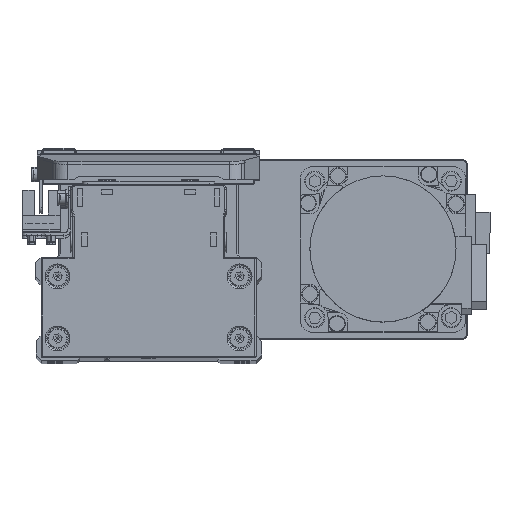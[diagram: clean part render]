
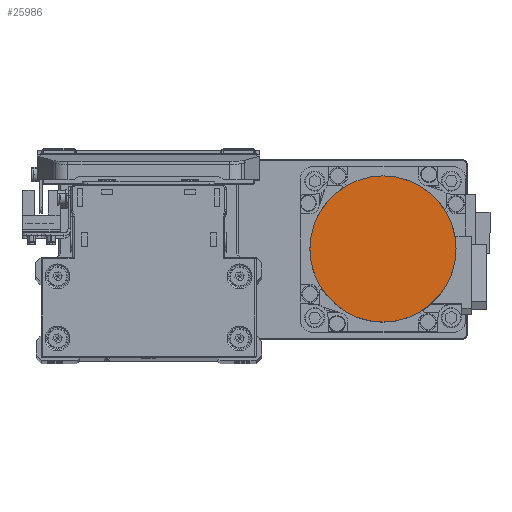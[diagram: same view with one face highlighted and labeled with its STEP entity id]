
A CAD part, top view. The second image highlights one B-rep face of the part: STEP entity #25986.
In plain terms, the highlighted planar face has unit normal (0, 0, 1) as drawn and (0, 0, -1) by its records, which use the part's own axes.
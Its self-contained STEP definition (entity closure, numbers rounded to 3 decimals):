
#11 = DIRECTION ( 'NONE',  ( -1., 0., 0. ) ) ;
#2032 = AXIS2_PLACEMENT_3D ( 'NONE', #7654, #20239, #32849 ) ;
#3191 = AXIS2_PLACEMENT_3D ( 'NONE', #21817, #34434, #6132 ) ;
#6132 = DIRECTION ( 'NONE',  ( 1., 0., 0. ) ) ;
#7654 = CARTESIAN_POINT ( 'NONE',  ( 0., 0., -109.7 ) ) ;
#8628 = AXIS2_PLACEMENT_3D ( 'NONE', #15705, #28318, #11 ) ;
#10066 = EDGE_CURVE ( 'NONE', #17508, #37812, #38839, .T. ) ;
#15705 = CARTESIAN_POINT ( 'NONE',  ( 0., 0., -109.7 ) ) ;
#17508 = VERTEX_POINT ( 'NONE', #28257 ) ;
#20239 = DIRECTION ( 'NONE',  ( 0., 0., 1. ) ) ;
#21058 = EDGE_LOOP ( 'NONE', ( #23523, #35830 ) ) ;
#21817 = CARTESIAN_POINT ( 'NONE',  ( 0., 0., -109.7 ) ) ;
#23358 = FACE_OUTER_BOUND ( 'NONE', #21058, .T. ) ;
#23523 = ORIENTED_EDGE ( 'NONE', *, *, #24529, .F. ) ;
#24529 = EDGE_CURVE ( 'NONE', #37812, #17508, #26446, .T. ) ;
#25986 = ADVANCED_FACE ( 'NONE', ( #23358 ), #35968, .F. ) ;
#26446 = CIRCLE ( 'NONE', #8628, 26.5 ) ;
#28257 = CARTESIAN_POINT ( 'NONE',  ( 26.5, 0., -109.7 ) ) ;
#28318 = DIRECTION ( 'NONE',  ( 0., 0., 1. ) ) ;
#30153 = CARTESIAN_POINT ( 'NONE',  ( -26.5, 0., -109.7 ) ) ;
#32849 = DIRECTION ( 'NONE',  ( 1., 0., 0. ) ) ;
#34434 = DIRECTION ( 'NONE',  ( 0., 0., 1. ) ) ;
#35830 = ORIENTED_EDGE ( 'NONE', *, *, #10066, .F. ) ;
#35968 = PLANE ( 'NONE',  #2032 ) ;
#37812 = VERTEX_POINT ( 'NONE', #30153 ) ;
#38839 = CIRCLE ( 'NONE', #3191, 26.5 ) ;
